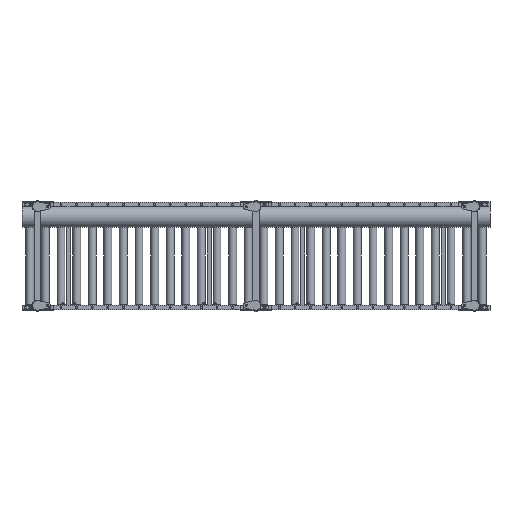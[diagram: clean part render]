
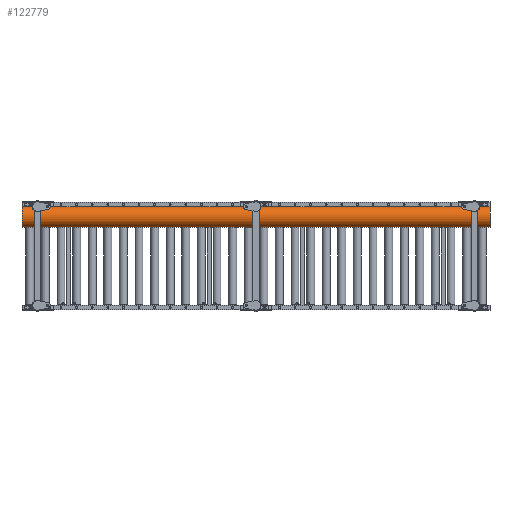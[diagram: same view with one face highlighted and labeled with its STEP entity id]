
A CAD part, front view. The second image highlights one B-rep face of the part: STEP entity #122779.
In plain terms, the highlighted cylindrical face has radius 66.89 mm (diameter 133.78 mm), a partial arc.
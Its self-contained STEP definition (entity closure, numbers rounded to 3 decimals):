
#26 = CARTESIAN_POINT ( 'NONE',  ( -3177.652, -150., 317. ) ) ;
#479 = VECTOR ( 'NONE', #123434, 1000. ) ;
#1429 = EDGE_CURVE ( 'NONE', #19160, #99118, #42244, .T. ) ;
#1547 = CARTESIAN_POINT ( 'NONE',  ( 0., -150., 183.22 ) ) ;
#19160 = VERTEX_POINT ( 'NONE', #123187 ) ;
#25669 = EDGE_CURVE ( 'NONE', #132621, #177483, #64408, .T. ) ;
#31591 = CARTESIAN_POINT ( 'NONE',  ( -3000., -150., 250.11 ) ) ;
#40665 = EDGE_CURVE ( 'NONE', #177483, #99118, #69349, .T. ) ;
#42244 = CIRCLE ( 'NONE', #158434, 66.89 ) ;
#45847 = VECTOR ( 'NONE', #54855, 1000. ) ;
#45939 = DIRECTION ( 'NONE',  ( 1., 0., 0. ) ) ;
#46182 = CARTESIAN_POINT ( 'NONE',  ( -3000., -150., 317. ) ) ;
#54855 = DIRECTION ( 'NONE',  ( 1., 0., 0. ) ) ;
#61051 = ORIENTED_EDGE ( 'NONE', *, *, #40665, .T. ) ;
#64408 = CIRCLE ( 'NONE', #144572, 66.89 ) ;
#69349 = LINE ( 'NONE', #124627, #479 ) ;
#71856 = DIRECTION ( 'NONE',  ( 1., 0., 0. ) ) ;
#79993 = DIRECTION ( 'NONE',  ( 1., 0., 0. ) ) ;
#82318 = LINE ( 'NONE', #26, #45847 ) ;
#84937 = DIRECTION ( 'NONE',  ( 0., 0., -1. ) ) ;
#86130 = AXIS2_PLACEMENT_3D ( 'NONE', #167049, #45939, #84937 ) ;
#86805 = DIRECTION ( 'NONE',  ( 0., 0., 1. ) ) ;
#90104 = ORIENTED_EDGE ( 'NONE', *, *, #25669, .T. ) ;
#99118 = VERTEX_POINT ( 'NONE', #1547 ) ;
#102354 = CYLINDRICAL_SURFACE ( 'NONE', #86130, 66.89 ) ;
#105067 = ORIENTED_EDGE ( 'NONE', *, *, #165223, .F. ) ;
#107578 = DIRECTION ( 'NONE',  ( 0., 0., 1. ) ) ;
#114401 = ORIENTED_EDGE ( 'NONE', *, *, #1429, .F. ) ;
#122779 = ADVANCED_FACE ( 'NONE', ( #175312 ), #102354, .T. ) ;
#123187 = CARTESIAN_POINT ( 'NONE',  ( 0., -150., 317. ) ) ;
#123434 = DIRECTION ( 'NONE',  ( 1., 0., 0. ) ) ;
#124627 = CARTESIAN_POINT ( 'NONE',  ( -3177.652, -150., 183.22 ) ) ;
#126188 = EDGE_LOOP ( 'NONE', ( #105067, #90104, #61051, #114401 ) ) ;
#132621 = VERTEX_POINT ( 'NONE', #46182 ) ;
#144572 = AXIS2_PLACEMENT_3D ( 'NONE', #31591, #71856, #86805 ) ;
#148908 = CARTESIAN_POINT ( 'NONE',  ( 0., -150., 250.11 ) ) ;
#155229 = CARTESIAN_POINT ( 'NONE',  ( -3000., -150., 183.22 ) ) ;
#158434 = AXIS2_PLACEMENT_3D ( 'NONE', #148908, #79993, #107578 ) ;
#165223 = EDGE_CURVE ( 'NONE', #132621, #19160, #82318, .T. ) ;
#167049 = CARTESIAN_POINT ( 'NONE',  ( -3177.652, -150., 250.11 ) ) ;
#175312 = FACE_OUTER_BOUND ( 'NONE', #126188, .T. ) ;
#177483 = VERTEX_POINT ( 'NONE', #155229 ) ;
